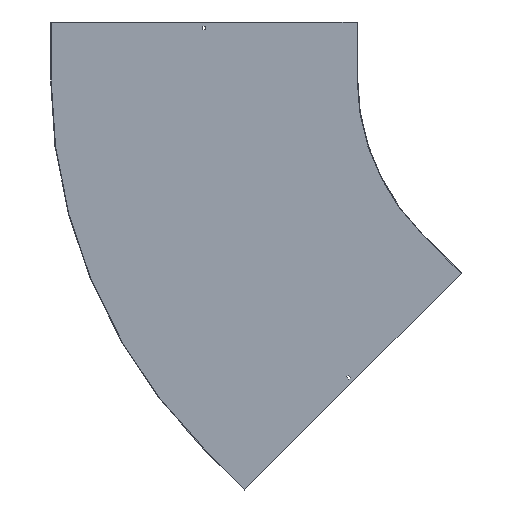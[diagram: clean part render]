
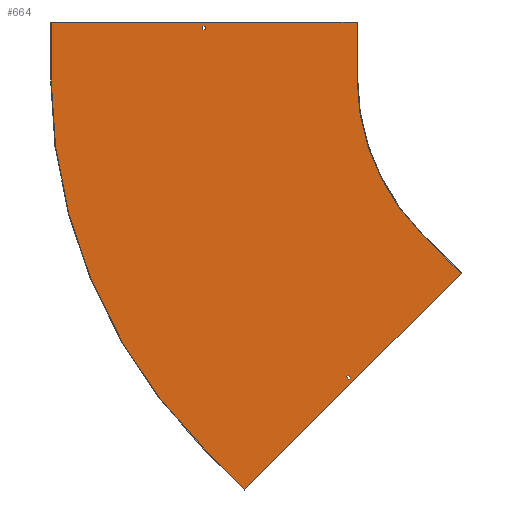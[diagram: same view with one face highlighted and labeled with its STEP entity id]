
A CAD part, front view. The second image highlights one B-rep face of the part: STEP entity #664.
In plain terms, the highlighted planar face has unit normal (0, -1, 0).
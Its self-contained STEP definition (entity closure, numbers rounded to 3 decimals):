
#8 = CARTESIAN_POINT ( 'NONE',  ( -590., -1.5, 150. ) ) ;
#16 = VERTEX_POINT ( 'NONE', #390 ) ;
#17 = VECTOR ( 'NONE', #552, 1000. ) ;
#18 = CARTESIAN_POINT ( 'NONE',  ( -996.75, -1.5, 129. ) ) ;
#19 = LINE ( 'NONE', #544, #553 ) ;
#21 = CARTESIAN_POINT ( 'NONE',  ( -996.75, -1.5, 138. ) ) ;
#30 = CARTESIAN_POINT ( 'NONE',  ( -997.021, -1.5, -997.021 ) ) ;
#34 = CARTESIAN_POINT ( 'NONE',  ( -1003.25, -1.5, 129. ) ) ;
#69 = VERTEX_POINT ( 'NONE', #629 ) ;
#73 = FACE_OUTER_BOUND ( 'NONE', #119, .T. ) ;
#75 = DIRECTION ( 'NONE',  ( 0., 0., -1. ) ) ;
#89 = VERTEX_POINT ( 'NONE', #240 ) ;
#92 = VECTOR ( 'NONE', #443, 1000. ) ;
#95 = DIRECTION ( 'NONE',  ( 0., 1., 0. ) ) ;
#97 = VERTEX_POINT ( 'NONE', #638 ) ;
#102 = ORIENTED_EDGE ( 'NONE', *, *, #817, .F. ) ;
#119 = EDGE_LOOP ( 'NONE', ( #428, #771, #667, #735, #365, #291, #456, #645 ) ) ;
#134 = DIRECTION ( 'NONE',  ( 0., 0., -1. ) ) ;
#135 = DIRECTION ( 'NONE',  ( 1., 0., 0. ) ) ;
#137 = CARTESIAN_POINT ( 'NONE',  ( -607.228, -1.5, -802.389 ) ) ;
#139 = AXIS2_PLACEMENT_3D ( 'NONE', #408, #749, #75 ) ;
#144 = VERTEX_POINT ( 'NONE', #34 ) ;
#148 = ORIENTED_EDGE ( 'NONE', *, *, #576, .F. ) ;
#150 = DIRECTION ( 'NONE',  ( 0., 0., -1. ) ) ;
#185 = AXIS2_PLACEMENT_3D ( 'NONE', #228, #95, #150 ) ;
#204 = CARTESIAN_POINT ( 'NONE',  ( -417.193, -1.5, -417.193 ) ) ;
#218 = LINE ( 'NONE', #604, #594 ) ;
#222 = EDGE_CURVE ( 'NONE', #404, #16, #514, .T. ) ;
#225 = VECTOR ( 'NONE', #560, 1000. ) ;
#228 = CARTESIAN_POINT ( 'NONE',  ( 0., -1.5, 0. ) ) ;
#240 = CARTESIAN_POINT ( 'NONE',  ( -1003.25, -1.5, 138. ) ) ;
#242 = LINE ( 'NONE', #452, #853 ) ;
#251 = VERTEX_POINT ( 'NONE', #789 ) ;
#264 = CARTESIAN_POINT ( 'NONE',  ( 0., -1.5, 129. ) ) ;
#267 = FACE_BOUND ( 'NONE', #747, .T. ) ;
#283 = VECTOR ( 'NONE', #628, 1000. ) ;
#288 = CARTESIAN_POINT ( 'NONE',  ( -611.824, -1.5, -806.986 ) ) ;
#291 = ORIENTED_EDGE ( 'NONE', *, *, #222, .F. ) ;
#292 = CARTESIAN_POINT ( 'NONE',  ( -704.809, -1.5, -704.809 ) ) ;
#323 = DIRECTION ( 'NONE',  ( 0.707, 0., -0.707 ) ) ;
#352 = VECTOR ( 'NONE', #418, 1000. ) ;
#357 = CARTESIAN_POINT ( 'NONE',  ( 0., -1.5, 0. ) ) ;
#360 = LINE ( 'NONE', #845, #283 ) ;
#365 = ORIENTED_EDGE ( 'NONE', *, *, #827, .F. ) ;
#377 = DIRECTION ( 'NONE',  ( 0.707, 0., 0.707 ) ) ;
#384 = VERTEX_POINT ( 'NONE', #18 ) ;
#390 = CARTESIAN_POINT ( 'NONE',  ( -311.127, -1.5, -523.259 ) ) ;
#399 = FACE_BOUND ( 'NONE', #794, .T. ) ;
#402 = EDGE_CURVE ( 'NONE', #483, #801, #464, .T. ) ;
#404 = VERTEX_POINT ( 'NONE', #204 ) ;
#408 = CARTESIAN_POINT ( 'NONE',  ( 0., -1.5, 0. ) ) ;
#415 = EDGE_CURVE ( 'NONE', #462, #384, #809, .T. ) ;
#417 = CARTESIAN_POINT ( 'NONE',  ( -890.955, -1.5, -1103.087 ) ) ;
#418 = DIRECTION ( 'NONE',  ( -0.707, 0., 0.707 ) ) ;
#421 = VECTOR ( 'NONE', #683, 1000. ) ;
#427 = CARTESIAN_POINT ( 'NONE',  ( -590., -1.5, 0. ) ) ;
#428 = ORIENTED_EDGE ( 'NONE', *, *, #635, .F. ) ;
#443 = DIRECTION ( 'NONE',  ( -1., 0., 0. ) ) ;
#447 = VERTEX_POINT ( 'NONE', #137 ) ;
#452 = CARTESIAN_POINT ( 'NONE',  ( -1410., -1.5, 0. ) ) ;
#456 = ORIENTED_EDGE ( 'NONE', *, *, #826, .F. ) ;
#462 = VERTEX_POINT ( 'NONE', #21 ) ;
#464 = LINE ( 'NONE', #532, #17 ) ;
#466 = VECTOR ( 'NONE', #323, 1000. ) ;
#472 = CARTESIAN_POINT ( 'NONE',  ( -590., -1.5, 150. ) ) ;
#483 = VERTEX_POINT ( 'NONE', #417 ) ;
#492 = DIRECTION ( 'NONE',  ( -0.707, 0., -0.707 ) ) ;
#504 = LINE ( 'NONE', #776, #225 ) ;
#506 = EDGE_CURVE ( 'NONE', #251, #69, #242, .T. ) ;
#509 = VECTOR ( 'NONE', #512, 1000. ) ;
#512 = DIRECTION ( 'NONE',  ( 0.707, 0., -0.707 ) ) ;
#514 = LINE ( 'NONE', #783, #466 ) ;
#525 = VERTEX_POINT ( 'NONE', #586 ) ;
#532 = CARTESIAN_POINT ( 'NONE',  ( -890.955, -1.5, -1103.087 ) ) ;
#534 = EDGE_CURVE ( 'NONE', #384, #144, #599, .T. ) ;
#537 = CIRCLE ( 'NONE', #632, 590. ) ;
#544 = CARTESIAN_POINT ( 'NONE',  ( 0., -1.5, 138. ) ) ;
#545 = ORIENTED_EDGE ( 'NONE', *, *, #702, .F. ) ;
#552 = DIRECTION ( 'NONE',  ( -0.707, 0., 0.707 ) ) ;
#553 = VECTOR ( 'NONE', #610, 1000. ) ;
#560 = DIRECTION ( 'NONE',  ( -0.707, 0., -0.707 ) ) ;
#565 = CIRCLE ( 'NONE', #185, 1410. ) ;
#566 = EDGE_CURVE ( 'NONE', #703, #447, #728, .T. ) ;
#567 = VECTOR ( 'NONE', #134, 1000. ) ;
#576 = EDGE_CURVE ( 'NONE', #525, #703, #860, .T. ) ;
#586 = CARTESIAN_POINT ( 'NONE',  ( -618.188, -1.5, -800.622 ) ) ;
#594 = VECTOR ( 'NONE', #135, 1000. ) ;
#596 = ORIENTED_EDGE ( 'NONE', *, *, #757, .T. ) ;
#599 = LINE ( 'NONE', #264, #92 ) ;
#604 = CARTESIAN_POINT ( 'NONE',  ( -1411.5, -1.5, 150. ) ) ;
#606 = LINE ( 'NONE', #8, #421 ) ;
#610 = DIRECTION ( 'NONE',  ( 1., 0., 0. ) ) ;
#612 = ORIENTED_EDGE ( 'NONE', *, *, #415, .T. ) ;
#622 = VECTOR ( 'NONE', #377, 1000. ) ;
#624 = LINE ( 'NONE', #292, #352 ) ;
#627 = EDGE_CURVE ( 'NONE', #662, #847, #606, .T. ) ;
#628 = DIRECTION ( 'NONE',  ( 0., 0., 1. ) ) ;
#629 = CARTESIAN_POINT ( 'NONE',  ( -1410., -1.5, 150. ) ) ;
#632 = AXIS2_PLACEMENT_3D ( 'NONE', #357, #837, #833 ) ;
#635 = EDGE_CURVE ( 'NONE', #69, #662, #218, .T. ) ;
#638 = CARTESIAN_POINT ( 'NONE',  ( -613.592, -1.5, -796.025 ) ) ;
#645 = ORIENTED_EDGE ( 'NONE', *, *, #627, .F. ) ;
#653 = EDGE_CURVE ( 'NONE', #89, #462, #19, .T. ) ;
#654 = CARTESIAN_POINT ( 'NONE',  ( -709.405, -1.5, -709.405 ) ) ;
#662 = VERTEX_POINT ( 'NONE', #472 ) ;
#664 = ADVANCED_FACE ( 'NONE', ( #267, #73, #399 ), #756, .T. ) ;
#666 = CARTESIAN_POINT ( 'NONE',  ( 97.581, -1.5, -97.581 ) ) ;
#667 = ORIENTED_EDGE ( 'NONE', *, *, #785, .F. ) ;
#683 = DIRECTION ( 'NONE',  ( 0., 0., -1. ) ) ;
#688 = ORIENTED_EDGE ( 'NONE', *, *, #653, .T. ) ;
#696 = CARTESIAN_POINT ( 'NONE',  ( 91.217, -1.5, -91.217 ) ) ;
#702 = EDGE_CURVE ( 'NONE', #97, #525, #811, .T. ) ;
#703 = VERTEX_POINT ( 'NONE', #288 ) ;
#728 = LINE ( 'NONE', #666, #622 ) ;
#735 = ORIENTED_EDGE ( 'NONE', *, *, #402, .F. ) ;
#745 = CARTESIAN_POINT ( 'NONE',  ( -996.75, -1.5, 0. ) ) ;
#747 = EDGE_LOOP ( 'NONE', ( #102, #786, #148, #545 ) ) ;
#749 = DIRECTION ( 'NONE',  ( 0., -1., 0. ) ) ;
#756 = PLANE ( 'NONE',  #139 ) ;
#757 = EDGE_CURVE ( 'NONE', #144, #89, #360, .T. ) ;
#771 = ORIENTED_EDGE ( 'NONE', *, *, #506, .F. ) ;
#776 = CARTESIAN_POINT ( 'NONE',  ( -310.066, -1.5, -522.198 ) ) ;
#782 = ORIENTED_EDGE ( 'NONE', *, *, #534, .T. ) ;
#783 = CARTESIAN_POINT ( 'NONE',  ( -417.193, -1.5, -417.193 ) ) ;
#785 = EDGE_CURVE ( 'NONE', #801, #251, #565, .T. ) ;
#786 = ORIENTED_EDGE ( 'NONE', *, *, #566, .F. ) ;
#789 = CARTESIAN_POINT ( 'NONE',  ( -1410., -1.5, 0. ) ) ;
#790 = DIRECTION ( 'NONE',  ( 0., 0., 1. ) ) ;
#794 = EDGE_LOOP ( 'NONE', ( #688, #612, #782, #596 ) ) ;
#801 = VERTEX_POINT ( 'NONE', #30 ) ;
#809 = LINE ( 'NONE', #745, #567 ) ;
#811 = LINE ( 'NONE', #696, #822 ) ;
#817 = EDGE_CURVE ( 'NONE', #447, #97, #624, .T. ) ;
#822 = VECTOR ( 'NONE', #492, 1000. ) ;
#826 = EDGE_CURVE ( 'NONE', #847, #404, #537, .T. ) ;
#827 = EDGE_CURVE ( 'NONE', #16, #483, #504, .T. ) ;
#833 = DIRECTION ( 'NONE',  ( 0., 0., -1. ) ) ;
#837 = DIRECTION ( 'NONE',  ( 0., -1., 0. ) ) ;
#845 = CARTESIAN_POINT ( 'NONE',  ( -1003.25, -1.5, 0. ) ) ;
#847 = VERTEX_POINT ( 'NONE', #427 ) ;
#853 = VECTOR ( 'NONE', #790, 1000. ) ;
#860 = LINE ( 'NONE', #654, #509 ) ;
